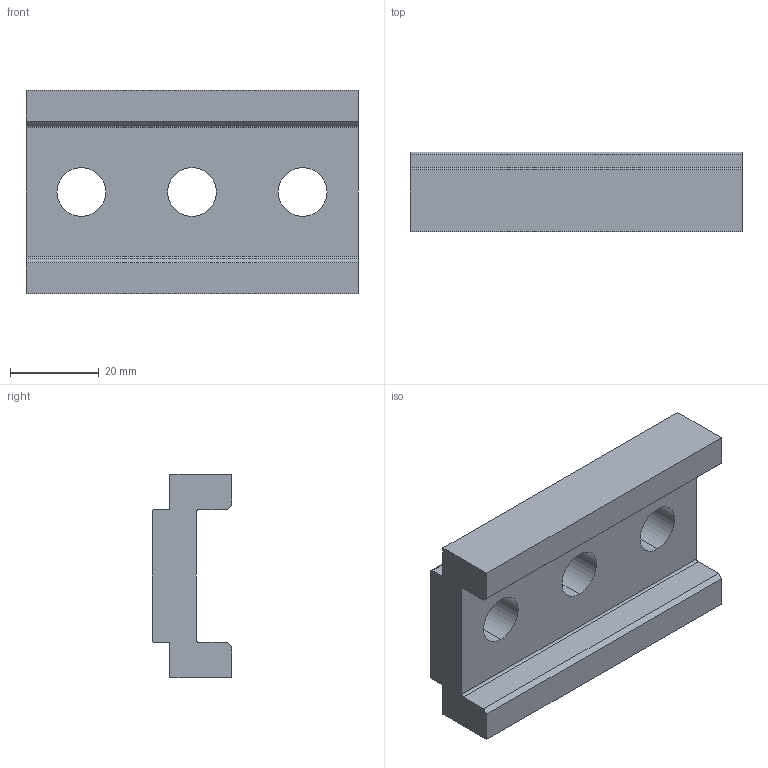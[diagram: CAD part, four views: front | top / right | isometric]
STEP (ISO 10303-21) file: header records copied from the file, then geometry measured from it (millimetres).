
FILE_DESCRIPTION (( 'STEP AP214' ), '1' );
FILE_NAME ('RB.1396.00.00.0-02.STEP', '2024-07-09T10:53:08', ( '' ), ( '' ), 'SwSTEP 2.0', 'SolidWorks 2022', '' );
FILE_SCHEMA (( 'AUTOMOTIVE_DESIGN' ));
Length unit declared in the file: millimetre
Products named in the file (1): RB.1396.00.00.0-02
Bounding box: 75 x 18 x 46 mm (x, y, z)
Volume: 36382.1 mm3; surface area: 12128.3 mm2
Topology: 1 solids, 1 shells, 28 faces, 78 edges, 52 vertices
Faces by surface type: plane 16, cylinder 12
Entity records: 952 total; most frequent: DIRECTION 160, CARTESIAN_POINT 159, ORIENTED_EDGE 156, EDGE_CURVE 78, LINE 54, VECTOR 54, AXIS2_PLACEMENT_3D 53, VERTEX_POINT 52
